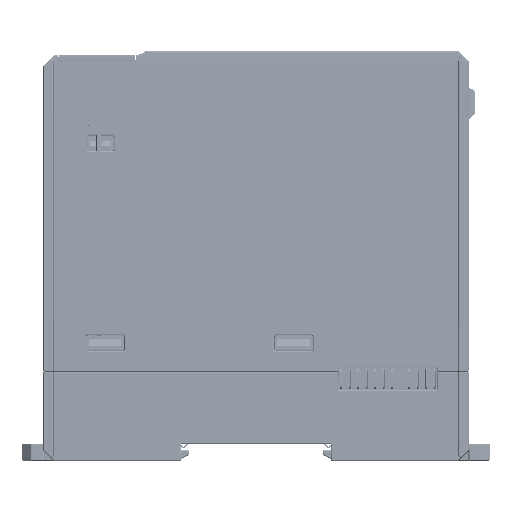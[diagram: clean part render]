
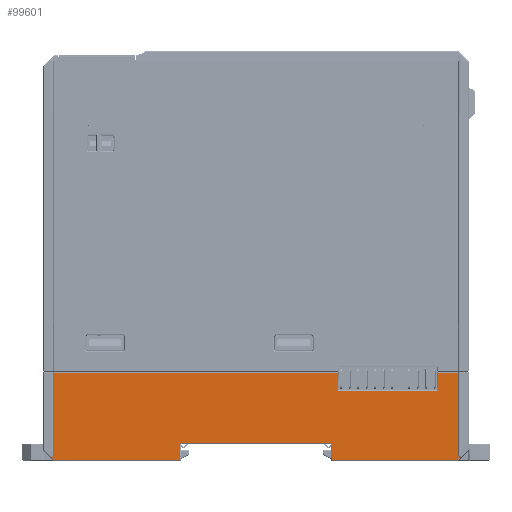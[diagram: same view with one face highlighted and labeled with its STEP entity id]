
A CAD part, left-side view. The second image highlights one B-rep face of the part: STEP entity #99601.
In plain terms, the highlighted planar face has unit normal (-1, 0, 0).
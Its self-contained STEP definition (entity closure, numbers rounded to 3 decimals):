
#80272=DIRECTION('',(0.,0.,-1.));
#80273=VECTOR('',#80272,18.996);
#80274=CARTESIAN_POINT('',(-14.,48.45,
0.9));
#80275=LINE('',#80274,#80273);
#80280=DIRECTION('',(0.,0.016,1.));
#80281=VECTOR('',#80280,4.318);
#80282=CARTESIAN_POINT('',(-14.,19.192,
-18.097));
#80283=LINE('',#80282,#80281);
#80284=DIRECTION('',(0.,0.016,-1.));
#80285=VECTOR('',#80284,4.318);
#80286=CARTESIAN_POINT('',(-14.,42.738,
-13.779));
#80287=LINE('',#80286,#80285);
#80288=CARTESIAN_POINT('',(-14.,48.95,
0.9));
#80289=DIRECTION('',(-1.,0.,0.));
#80290=DIRECTION('',(0.,-1.,0.));
#80291=AXIS2_PLACEMENT_3D('',#80288,#80289,#80290);
#80293=DIRECTION('',(0.,-0.707,0.707));
#80294=VECTOR('',#80293,0.081);
#80295=CARTESIAN_POINT('',(-14.,48.507,
1.131));
#80296=LINE('',#80295,#80294);
#80297=DIRECTION('',(0.,-0.707,0.707));
#80298=VECTOR('',#80297,1.49);
#80299=CARTESIAN_POINT('',(-14.,48.45,
1.4));
#80300=LINE('',#80299,#80298);
#80301=DIRECTION('',(0.,-0.017,-1.));
#80302=VECTOR('',#80301,3.509);
#80303=CARTESIAN_POINT('',(-14.,17.917,
2.453));
#80304=LINE('',#80303,#80302);
#80305=CARTESIAN_POINT('',(-14.,17.356,
-1.047));
#80306=DIRECTION('',(-1.,0.,0.));
#80307=DIRECTION('',(0.,1.,-0.017));
#80308=AXIS2_PLACEMENT_3D('',#80305,#80306,#80307);
#80310=CARTESIAN_POINT('',(-14.,-17.356,
-1.047));
#80311=DIRECTION('',(-1.,0.,0.));
#80312=DIRECTION('',(0.,0.,-1.));
#80313=AXIS2_PLACEMENT_3D('',#80310,#80311,#80312);
#80315=DIRECTION('',(0.,-0.017,1.));
#80316=VECTOR('',#80315,3.509);
#80317=CARTESIAN_POINT('',(-14.,-17.856,
-1.056));
#80318=LINE('',#80317,#80316);
#80319=DIRECTION('',(0.,-0.707,-0.707));
#80320=VECTOR('',#80319,1.49);
#80321=CARTESIAN_POINT('',(-14.,-47.396,
2.453));
#80322=LINE('',#80321,#80320);
#80327=DIRECTION('',(0.,0.,1.));
#80328=VECTOR('',#80327,19.496);
#80329=CARTESIAN_POINT('',(-14.,-48.45,
-18.097));
#80330=LINE('',#80329,#80328);
#81168=DIRECTION('',(0.,1.,0.));
#81169=VECTOR('',#81168,29.479);
#81170=CARTESIAN_POINT('',(-14.,-47.396,
2.453));
#81171=LINE('',#81170,#81169);
#81351=DIRECTION('',(0.,1.,0.));
#81352=VECTOR('',#81351,34.713);
#81353=CARTESIAN_POINT('',(-14.,-17.356,
-1.547));
#81354=LINE('',#81353,#81352);
#81424=DIRECTION('',(0.,1.,0.));
#81425=VECTOR('',#81424,29.479);
#81426=CARTESIAN_POINT('',(-14.,17.917,
2.453));
#81427=LINE('',#81426,#81425);
#81596=DIRECTION('',(0.,0.,-1.));
#81597=VECTOR('',#81596,0.211);
#81598=CARTESIAN_POINT('',(-14.,48.45,
1.4));
#81599=LINE('',#81598,#81597);
#85042=DIRECTION('',(0.,-1.,0.));
#85043=VECTOR('',#85042,67.642);
#85044=CARTESIAN_POINT('',(-14.,19.192,
-18.097));
#85045=LINE('',#85044,#85043);
#85113=DIRECTION('',(0.,-1.,0.));
#85114=VECTOR('',#85113,23.475);
#85115=CARTESIAN_POINT('',(-14.,42.738,
-13.779));
#85116=LINE('',#85115,#85114);
#85164=DIRECTION('',(0.,-1.,0.));
#85165=VECTOR('',#85164,5.642);
#85166=CARTESIAN_POINT('',(-14.,48.45,
-18.097));
#85167=LINE('',#85166,#85165);
#95609=CARTESIAN_POINT('',(-14.,48.45,
0.9));
#95610=CARTESIAN_POINT('',(-14.,48.45,
-18.097));
#95611=VERTEX_POINT('',#95609);
#95612=VERTEX_POINT('',#95610);
#95613=CARTESIAN_POINT('',(-14.,-48.45,
-18.097));
#95614=CARTESIAN_POINT('',(-14.,-48.45,
1.4));
#95615=VERTEX_POINT('',#95613);
#95616=VERTEX_POINT('',#95614);
#95617=CARTESIAN_POINT('',(-14.,19.192,
-18.097));
#95618=VERTEX_POINT('',#95617);
#95619=CARTESIAN_POINT('',(-14.,19.262,
-13.779));
#95620=VERTEX_POINT('',#95619);
#95621=CARTESIAN_POINT('',(-14.,42.738,
-13.779));
#95622=VERTEX_POINT('',#95621);
#95623=CARTESIAN_POINT('',(-14.,42.808,
-18.097));
#95624=VERTEX_POINT('',#95623);
#95625=CARTESIAN_POINT('',(-14.,48.507,
1.131));
#95626=VERTEX_POINT('',#95625);
#95627=CARTESIAN_POINT('',(-14.,48.45,
1.188));
#95628=VERTEX_POINT('',#95627);
#95629=CARTESIAN_POINT('',(-14.,48.45,
1.4));
#95630=VERTEX_POINT('',#95629);
#95631=CARTESIAN_POINT('',(-14.,47.397,
2.453));
#95632=VERTEX_POINT('',#95631);
#95633=CARTESIAN_POINT('',(-14.,17.917,
2.453));
#95634=VERTEX_POINT('',#95633);
#95635=CARTESIAN_POINT('',(-14.,17.856,
-1.056));
#95636=VERTEX_POINT('',#95635);
#95637=CARTESIAN_POINT('',(-14.,17.356,
-1.547));
#95638=VERTEX_POINT('',#95637);
#95639=CARTESIAN_POINT('',(-14.,-17.356,
-1.547));
#95640=VERTEX_POINT('',#95639);
#95641=CARTESIAN_POINT('',(-14.,-17.856,
-1.056));
#95642=VERTEX_POINT('',#95641);
#95643=CARTESIAN_POINT('',(-14.,-17.917,
2.453));
#95644=VERTEX_POINT('',#95643);
#95645=CARTESIAN_POINT('',(-14.,-47.396,
2.453));
#95646=VERTEX_POINT('',#95645);
#99557=CARTESIAN_POINT('',(-14.,50.,
-112.997));
#99558=DIRECTION('',(1.,0.,0.));
#99559=DIRECTION('',(0.,0.,1.));
#99560=AXIS2_PLACEMENT_3D('',#99557,#99558,#99559);
#99561=PLANE('',#99560);
#99563=ORIENTED_EDGE('',*,*,#99562,.F.);
#99565=ORIENTED_EDGE('',*,*,#99564,.F.);
#99567=ORIENTED_EDGE('',*,*,#99566,.T.);
#99569=ORIENTED_EDGE('',*,*,#99568,.F.);
#99571=ORIENTED_EDGE('',*,*,#99570,.T.);
#99573=ORIENTED_EDGE('',*,*,#99572,.F.);
#99574=ORIENTED_EDGE('',*,*,#99547,.F.);
#99576=ORIENTED_EDGE('',*,*,#99575,.T.);
#99578=ORIENTED_EDGE('',*,*,#99577,.T.);
#99580=ORIENTED_EDGE('',*,*,#99579,.F.);
#99582=ORIENTED_EDGE('',*,*,#99581,.T.);
#99584=ORIENTED_EDGE('',*,*,#99583,.F.);
#99586=ORIENTED_EDGE('',*,*,#99585,.T.);
#99588=ORIENTED_EDGE('',*,*,#99587,.T.);
#99590=ORIENTED_EDGE('',*,*,#99589,.F.);
#99592=ORIENTED_EDGE('',*,*,#99591,.T.);
#99594=ORIENTED_EDGE('',*,*,#99593,.T.);
#99596=ORIENTED_EDGE('',*,*,#99595,.F.);
#99598=ORIENTED_EDGE('',*,*,#99597,.T.);
#99599=EDGE_LOOP('',(#99563,#99565,#99567,#99569,#99571,#99573,#99574,#99576,
#99578,#99580,#99582,#99584,#99586,#99588,#99590,#99592,#99594,#99596,#99598));
#99600=FACE_OUTER_BOUND('',#99599,.F.);
#99601=ADVANCED_FACE('',(#99600),#99561,.F.);
#80292=CIRCLE('',#80291,0.5);
#80309=CIRCLE('',#80308,0.5);
#80314=CIRCLE('',#80313,0.5);
#99547=EDGE_CURVE('',#95611,#95612,#80275,.T.);
#99562=EDGE_CURVE('',#95615,#95616,#80330,.T.);
#99564=EDGE_CURVE('',#95618,#95615,#85045,.T.);
#99566=EDGE_CURVE('',#95618,#95620,#80283,.T.);
#99568=EDGE_CURVE('',#95622,#95620,#85116,.T.);
#99570=EDGE_CURVE('',#95622,#95624,#80287,.T.);
#99572=EDGE_CURVE('',#95612,#95624,#85167,.T.);
#99575=EDGE_CURVE('',#95611,#95626,#80292,.T.);
#99577=EDGE_CURVE('',#95626,#95628,#80296,.T.);
#99579=EDGE_CURVE('',#95630,#95628,#81599,.T.);
#99581=EDGE_CURVE('',#95630,#95632,#80300,.T.);
#99583=EDGE_CURVE('',#95634,#95632,#81427,.T.);
#99585=EDGE_CURVE('',#95634,#95636,#80304,.T.);
#99587=EDGE_CURVE('',#95636,#95638,#80309,.T.);
#99589=EDGE_CURVE('',#95640,#95638,#81354,.T.);
#99591=EDGE_CURVE('',#95640,#95642,#80314,.T.);
#99593=EDGE_CURVE('',#95642,#95644,#80318,.T.);
#99595=EDGE_CURVE('',#95646,#95644,#81171,.T.);
#99597=EDGE_CURVE('',#95646,#95616,#80322,.T.);
